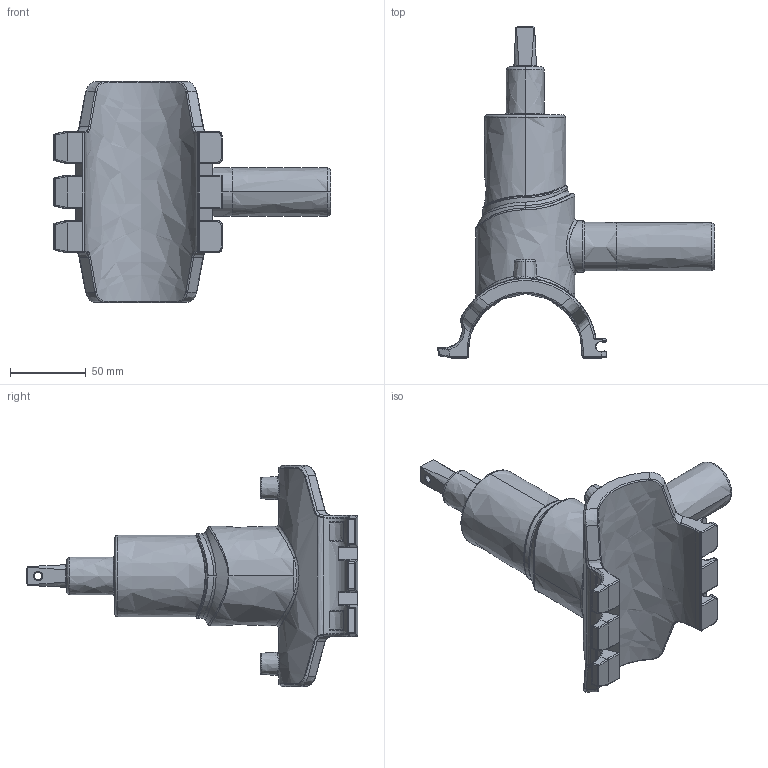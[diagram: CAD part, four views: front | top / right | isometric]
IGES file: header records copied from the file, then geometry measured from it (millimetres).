
Start section:  PTC IGES file: dav2_d075_32_01.igs
Global section: file name: dav2_d075_32_01.igs; native system: Creo Parametric by PTC Inc.; preprocessor: 2022124; author: mikulicp; organization: Unknown; date: 20240502.111206; units: millimetre
Bounding box: 182.91 x 219.14 x 146 mm (x, y, z)
Surface area: 83095.4 mm2 (no closed solid volume)
Topology: 0 solids, 0 shells, 528 faces, 2574 edges, 2568 vertices
Faces by surface type: bspline 528
